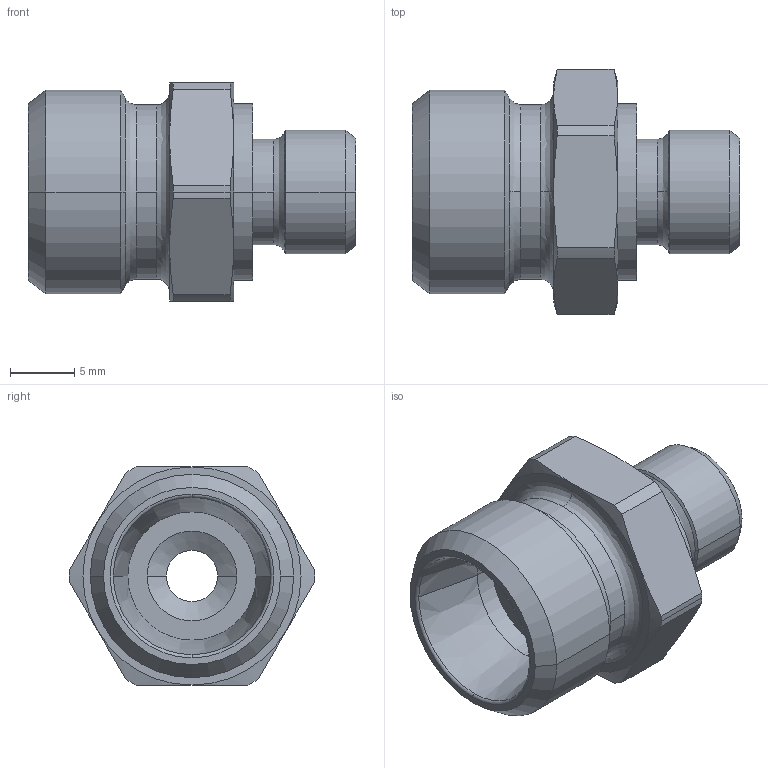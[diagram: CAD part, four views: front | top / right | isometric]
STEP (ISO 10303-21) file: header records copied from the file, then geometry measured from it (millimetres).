
FILE_DESCRIPTION((''),'2;1');
FILE_NAME('100528.stp','2007-10-30T14:36:21',(''),(''),'AutoCAD STEP 2000i','AutoCAD 2000i',', , ');
FILE_SCHEMA(('CONFIG_CONTROL_DESIGN'));
Length unit declared in the file: millimetre
Products named in the file (2): 100528.0; CHIAVE SMUSSATA#0
Assembly tree (1 placements, depth 2):
  100528.0
    CHIAVE SMUSSATA#0
Bounding box: 25.5 x 19.1 x 17 mm (x, y, z)
Volume: 2828.6 mm3; surface area: 2130.5 mm2
Topology: 1 solids, 1 shells, 79 faces, 193 edges, 121 vertices
Faces by surface type: cylinder 26, cone 26, plane 13, bspline 12, torus 2
Entity records: 2935 total; most frequent: CARTESIAN_POINT 971, DIRECTION 430, ORIENTED_EDGE 386, EDGE_CURVE 193, AXIS2_PLACEMENT_3D 192, CIRCLE 123, VERTEX_POINT 121, EDGE_LOOP 86
